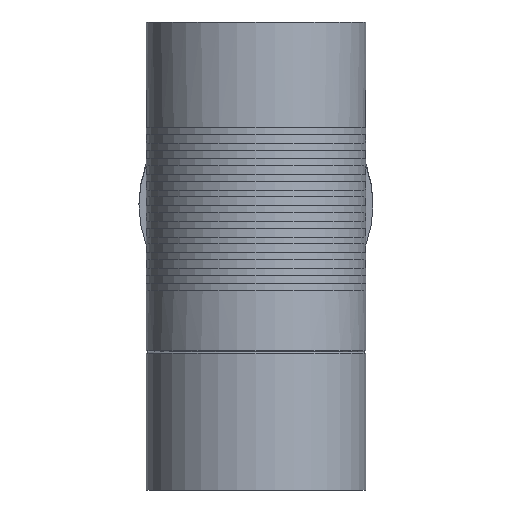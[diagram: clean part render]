
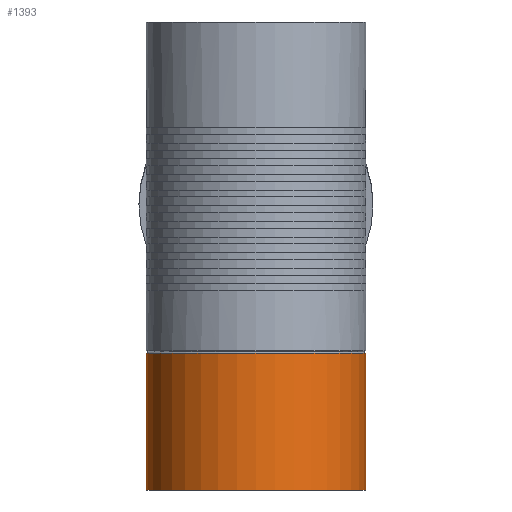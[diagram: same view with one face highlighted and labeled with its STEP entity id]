
A CAD part, left-side view. The second image highlights one B-rep face of the part: STEP entity #1393.
In plain terms, the highlighted cylindrical face has radius 67.5 mm (diameter 135 mm), a full revolution.
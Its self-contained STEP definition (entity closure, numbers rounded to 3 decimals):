
#200=CYLINDRICAL_SURFACE($,#1499,67.5);
#245=FACE_BOUND($,#394,.T.);
#300=FACE_OUTER_BOUND($,#393,.T.);
#393=EDGE_LOOP($,(#945));
#394=EDGE_LOOP($,(#946));
#537=CIRCLE($,#1498,67.5);
#538=CIRCLE($,#1500,67.5);
#645=VERTEX_POINT($,#2195);
#646=VERTEX_POINT($,#2198);
#771=EDGE_CURVE($,#645,#645,#537,.T.);
#772=EDGE_CURVE($,#646,#646,#538,.T.);
#945=ORIENTED_EDGE($,*,*,#772,.F.);
#946=ORIENTED_EDGE($,*,*,#771,.T.);
#1393=ADVANCED_FACE($,(#300,#245),#200,.T.);
#1498=AXIS2_PLACEMENT_3D($,#2196,#1714,#1715);
#1499=AXIS2_PLACEMENT_3D($,#2197,#1716,#1717);
#1500=AXIS2_PLACEMENT_3D($,#2199,#1718,#1719);
#1714=DIRECTION('center_axis',(0.,0.,-1.));
#1715=DIRECTION('ref_axis',(-1.,0.,0.));
#1716=DIRECTION('center_axis',(0.,0.,1.));
#1717=DIRECTION('ref_axis',(-1.,0.,0.));
#1718=DIRECTION('center_axis',(0.,0.,-1.));
#1719=DIRECTION('ref_axis',(-1.,0.,0.));
#2195=CARTESIAN_POINT('',(-67.5,0.,84.221));
#2196=CARTESIAN_POINT('Origin',(0.,0.,84.221));
#2197=CARTESIAN_POINT('Origin',(0.,0.,0.));
#2198=CARTESIAN_POINT('',(67.5,0.,0.));
#2199=CARTESIAN_POINT('Origin',(0.,0.,0.));
